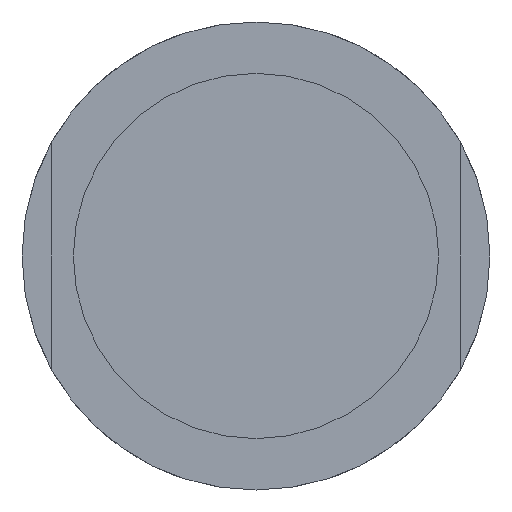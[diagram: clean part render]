
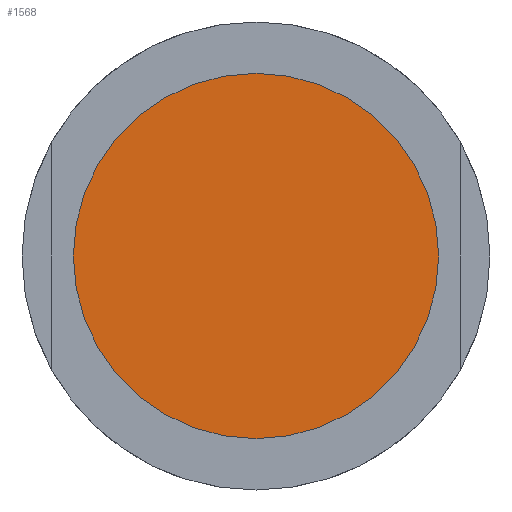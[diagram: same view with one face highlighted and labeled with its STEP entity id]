
A CAD part, left-side view. The second image highlights one B-rep face of the part: STEP entity #1568.
In plain terms, the highlighted planar face has unit normal (-1, 0, 0).
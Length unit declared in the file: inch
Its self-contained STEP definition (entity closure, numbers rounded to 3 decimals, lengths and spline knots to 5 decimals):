
#43 = DIRECTION ( 'NONE',  ( 0., 0., -1. ) ) ;
#47 = DIRECTION ( 'NONE',  ( 1., 0., 0. ) ) ;
#54 = CARTESIAN_POINT ( 'NONE',  ( -2.1, 0., 0. ) ) ;
#235 = FACE_OUTER_BOUND ( 'NONE', #1988, .T. ) ;
#329 = CARTESIAN_POINT ( 'NONE',  ( -2.1, 0., 0.7806 ) ) ;
#335 = CARTESIAN_POINT ( 'NONE',  ( -2.1, 0., -0.7806 ) ) ;
#542 = VERTEX_POINT ( 'NONE', #335 ) ;
#711 = ORIENTED_EDGE ( 'NONE', *, *, #1695, .F. ) ;
#722 = ORIENTED_EDGE ( 'NONE', *, *, #1879, .F. ) ;
#1013 = DIRECTION ( 'NONE',  ( 1., 0., 0. ) ) ;
#1051 = CARTESIAN_POINT ( 'NONE',  ( -2.1, 0.4375, 0. ) ) ;
#1057 = DIRECTION ( 'NONE',  ( 0., 0., -1. ) ) ;
#1095 = PLANE ( 'NONE',  #1626 ) ;
#1147 = CIRCLE ( 'NONE', #1766, 0.7806 ) ;
#1269 = VERTEX_POINT ( 'NONE', #329 ) ;
#1321 = CARTESIAN_POINT ( 'NONE',  ( -2.1, 0., 0. ) ) ;
#1322 = DIRECTION ( 'NONE',  ( 1., 0., 0. ) ) ;
#1323 = DIRECTION ( 'NONE',  ( 0., 0., -1. ) ) ;
#1465 = CIRCLE ( 'NONE', #1856, 0.7806 ) ;
#1568 = ADVANCED_FACE ( 'NONE', ( #235 ), #1095, .F. ) ;
#1626 = AXIS2_PLACEMENT_3D ( 'NONE', #1051, #1013, #1057 ) ;
#1695 = EDGE_CURVE ( 'NONE', #1269, #542, #1147, .T. ) ;
#1766 = AXIS2_PLACEMENT_3D ( 'NONE', #54, #47, #43 ) ;
#1856 = AXIS2_PLACEMENT_3D ( 'NONE', #1321, #1322, #1323 ) ;
#1879 = EDGE_CURVE ( 'NONE', #542, #1269, #1465, .T. ) ;
#1988 = EDGE_LOOP ( 'NONE', ( #722, #711 ) ) ;
